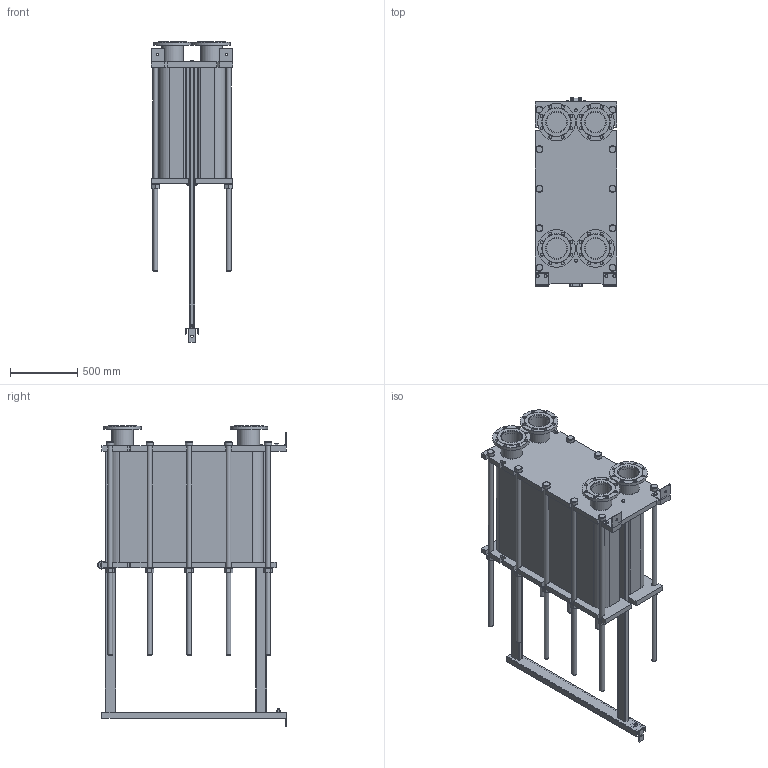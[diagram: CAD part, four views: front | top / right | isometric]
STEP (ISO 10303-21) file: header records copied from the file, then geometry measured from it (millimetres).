
FILE_DESCRIPTION(/* description */ (''),/* implementation_level */ '2;1');
FILE_NAME(/* name */ 'C:\Users\zhuro\Desktop\ENCO\TO\ЭН-041\ЭН-0,5-041-240-1.stp',/* time_stamp */ '2022-06-06T11:08:53+03:00',/* author */ ('zhuro'),/* organization */ (''),/* preprocessor_version */ 'ST-DEVELOPER v18.1',/* originating_system */ 'Autodesk Inventor 2022',/* authorisation */ '');
FILE_SCHEMA (('AUTOMOTIVE_DESIGN { 1 0 10303 214 3 1 1 }'));
Length unit declared in the file: millimetre
Products named in the file (1): ЭН-0,5-041-240-1
Bounding box: 610 x 1406.5 x 2240 mm (x, y, z)
Volume: 556009376.9 mm3; surface area: 12111396.3 mm2
Topology: 52 solids, 52 shells, 711 faces, 1696 edges, 1094 vertices
Faces by surface type: plane 487, cylinder 177, cone 41, torus 6
Full cylindrical faces by diameter (mm): 8 x4, 10 x2, 16 x8, 18 x3, 22 x32, 36 x24, 50 x1, 54 x10, 60 x12, 151 x4, 161 x8, 280 x4
Entity records: 22667 total; most frequent: CARTESIAN_POINT 5230, DIRECTION 3644, ORIENTED_EDGE 3392, EDGE_CURVE 1696, AXIS2_PLACEMENT_3D 1272, LINE 1100, VECTOR 1100, VERTEX_POINT 1094
